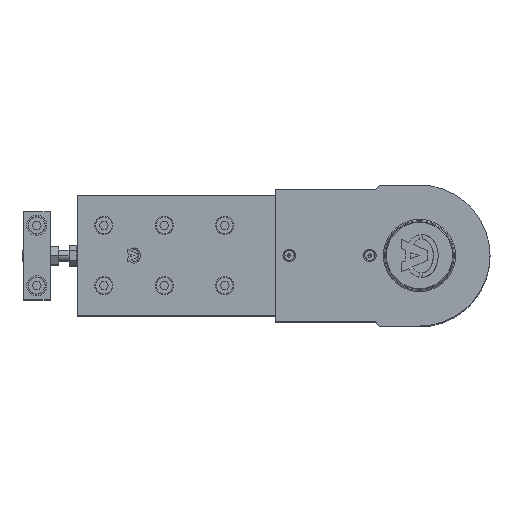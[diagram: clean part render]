
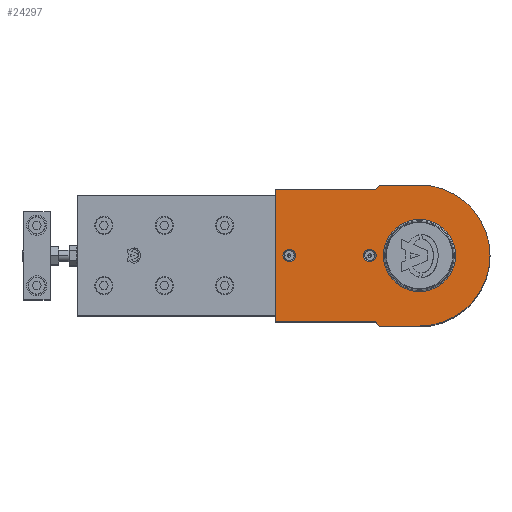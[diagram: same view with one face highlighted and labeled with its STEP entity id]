
A CAD part, top view. The second image highlights one B-rep face of the part: STEP entity #24297.
In plain terms, the highlighted planar face has unit normal (0, 0, 1).
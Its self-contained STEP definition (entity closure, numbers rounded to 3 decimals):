
#202 = AXIS2_PLACEMENT_3D ( 'NONE', #17043, #17044, #17045 ) ;
#205 = CIRCLE ( 'NONE', #202, 4.7 ) ;
#379 = CARTESIAN_POINT ( 'NONE',  ( 26.933, 0., 0. ) ) ;
#380 = CARTESIAN_POINT ( 'NONE',  ( -26.933, 0., 0. ) ) ;
#384 = CARTESIAN_POINT ( 'NONE',  ( 32.3, 0., 0. ) ) ;
#385 = CARTESIAN_POINT ( 'NONE',  ( 41.7, 0., 0. ) ) ;
#388 = CARTESIAN_POINT ( 'NONE',  ( 92.3, 0., 0. ) ) ;
#389 = CARTESIAN_POINT ( 'NONE',  ( 101.7, 0., 0. ) ) ;
#838 = CIRCLE ( 'NONE', #843, 4.7 ) ;
#843 = AXIS2_PLACEMENT_3D ( 'NONE', #17809, #17810, #17811 ) ;
#1179 = AXIS2_PLACEMENT_3D ( 'NONE', #6254, #6256, #6258 ) ;
#1180 = CIRCLE ( 'NONE', #1179, 4.7 ) ;
#3986 = CARTESIAN_POINT ( 'NONE',  ( 0., 0., 0. ) ) ;
#3987 = DIRECTION ( 'NONE',  ( 0., 0., -1. ) ) ;
#3989 = DIRECTION ( 'NONE',  ( 1., 0., 0. ) ) ;
#5051 = LINE ( 'NONE', #5058, #8446 ) ;
#5058 = CARTESIAN_POINT ( 'NONE',  ( 107.5, 49.5, 0. ) ) ;
#5059 = DIRECTION ( 'NONE',  ( -1., 0., 0. ) ) ;
#5110 = LINE ( 'NONE', #5111, #8441 ) ;
#5111 = CARTESIAN_POINT ( 'NONE',  ( 33., -49.5, 0. ) ) ;
#5112 = DIRECTION ( 'NONE',  ( 0.707, 0.707, 0. ) ) ;
#6254 = CARTESIAN_POINT ( 'NONE',  ( 37., 0., 0. ) ) ;
#6256 = DIRECTION ( 'NONE',  ( 0., 0., 1. ) ) ;
#6258 = DIRECTION ( 'NONE',  ( 1., 0., 0. ) ) ;
#6590 = VERTEX_POINT ( 'NONE', #379 ) ;
#6591 = VERTEX_POINT ( 'NONE', #380 ) ;
#6595 = VERTEX_POINT ( 'NONE', #384 ) ;
#6596 = VERTEX_POINT ( 'NONE', #385 ) ;
#6599 = VERTEX_POINT ( 'NONE', #388 ) ;
#6600 = VERTEX_POINT ( 'NONE', #389 ) ;
#6807 = VECTOR ( 'NONE', #15468, 1000. ) ;
#6831 = CIRCLE ( 'NONE', #6838, 4.7 ) ;
#6838 = AXIS2_PLACEMENT_3D ( 'NONE', #15583, #15584, #15585 ) ;
#6849 = CIRCLE ( 'NONE', #6852, 52.5 ) ;
#6852 = AXIS2_PLACEMENT_3D ( 'NONE', #15636, #15637, #15638 ) ;
#6870 = AXIS2_PLACEMENT_3D ( 'NONE', #15708, #15709, #15710 ) ;
#6873 = CIRCLE ( 'NONE', #6870, 26.933 ) ;
#6890 = VECTOR ( 'NONE', #15764, 1000. ) ;
#7362 = EDGE_CURVE ( 'NONE', #6595, #6596, #205, .T. ) ;
#7406 = EDGE_CURVE ( 'NONE', #6590, #6591, #24240, .T. ) ;
#8102 = EDGE_LOOP ( 'NONE', ( #21142, #21143, #21144, #21145, #21146, #21147, #21148, #21149 ) ) ;
#8108 = EDGE_LOOP ( 'NONE', ( #21138, #21139 ) ) ;
#8112 = EDGE_LOOP ( 'NONE', ( #21136, #21137 ) ) ;
#8113 = EDGE_LOOP ( 'NONE', ( #21140, #21141 ) ) ;
#8441 = VECTOR ( 'NONE', #5112, 1000. ) ;
#8446 = VECTOR ( 'NONE', #5059, 1000. ) ;
#9664 = LINE ( 'NONE', #9684, #22557 ) ;
#9684 = CARTESIAN_POINT ( 'NONE',  ( 107.5, -49.5, 0. ) ) ;
#9685 = DIRECTION ( 'NONE',  ( 1., 0., 0. ) ) ;
#9753 = LINE ( 'NONE', #9761, #22560 ) ;
#9761 = CARTESIAN_POINT ( 'NONE',  ( 33., 49.5, 0. ) ) ;
#9765 = DIRECTION ( 'NONE',  ( -0.707, 0.707, 0. ) ) ;
#10975 = FACE_BOUND ( 'NONE', #8108, .T. ) ;
#10978 = DIRECTION ( 'NONE',  ( 0., 0., 1. ) ) ;
#10982 = FACE_BOUND ( 'NONE', #8112, .T. ) ;
#10983 = CARTESIAN_POINT ( 'NONE',  ( 0., 0., 0. ) ) ;
#10985 = FACE_BOUND ( 'NONE', #8113, .T. ) ;
#10986 = FACE_OUTER_BOUND ( 'NONE', #8102, .T. ) ;
#10987 = PLANE ( 'NONE',  #14683 ) ;
#10988 = DIRECTION ( 'NONE',  ( 1., 0., 0. ) ) ;
#13859 = EDGE_CURVE ( 'NONE', #22247, #22254, #20001, .T. ) ;
#14401 = EDGE_CURVE ( 'NONE', #6599, #6600, #838, .T. ) ;
#14683 = AXIS2_PLACEMENT_3D ( 'NONE', #10983, #10978, #10988 ) ;
#15333 = CARTESIAN_POINT ( 'NONE',  ( 107.5, -49.5, 0. ) ) ;
#15340 = CARTESIAN_POINT ( 'NONE',  ( 107.5, 49.5, 0. ) ) ;
#15342 = CARTESIAN_POINT ( 'NONE',  ( 33., 49.5, 0. ) ) ;
#15343 = CARTESIAN_POINT ( 'NONE',  ( 30., 52.5, 0. ) ) ;
#15344 = CARTESIAN_POINT ( 'NONE',  ( 0., 52.5, 0. ) ) ;
#15345 = CARTESIAN_POINT ( 'NONE',  ( 0., -52.5, 0. ) ) ;
#15346 = CARTESIAN_POINT ( 'NONE',  ( 30., -52.5, 0. ) ) ;
#15347 = CARTESIAN_POINT ( 'NONE',  ( 33., -49.5, 0. ) ) ;
#15466 = LINE ( 'NONE', #15467, #6807 ) ;
#15467 = CARTESIAN_POINT ( 'NONE',  ( 30., -52.5, 0. ) ) ;
#15468 = DIRECTION ( 'NONE',  ( 1., 0., 0. ) ) ;
#15583 = CARTESIAN_POINT ( 'NONE',  ( 97., 0., 0. ) ) ;
#15584 = DIRECTION ( 'NONE',  ( 0., 0., 1. ) ) ;
#15585 = DIRECTION ( 'NONE',  ( 1., 0., 0. ) ) ;
#15636 = CARTESIAN_POINT ( 'NONE',  ( 0., 0., 0. ) ) ;
#15637 = DIRECTION ( 'NONE',  ( 0., 0., 1. ) ) ;
#15638 = DIRECTION ( 'NONE',  ( 1., 0., 0. ) ) ;
#15708 = CARTESIAN_POINT ( 'NONE',  ( 0., 0., 0. ) ) ;
#15709 = DIRECTION ( 'NONE',  ( 0., 0., -1. ) ) ;
#15710 = DIRECTION ( 'NONE',  ( 1., 0., 0. ) ) ;
#15762 = LINE ( 'NONE', #15763, #6890 ) ;
#15763 = CARTESIAN_POINT ( 'NONE',  ( 30., 52.5, 0. ) ) ;
#15764 = DIRECTION ( 'NONE',  ( -1., 0., 0. ) ) ;
#17043 = CARTESIAN_POINT ( 'NONE',  ( 37., 0., 0. ) ) ;
#17044 = DIRECTION ( 'NONE',  ( 0., 0., 1. ) ) ;
#17045 = DIRECTION ( 'NONE',  ( 1., 0., 0. ) ) ;
#17809 = CARTESIAN_POINT ( 'NONE',  ( 97., 0., 0. ) ) ;
#17810 = DIRECTION ( 'NONE',  ( 0., 0., 1. ) ) ;
#17811 = DIRECTION ( 'NONE',  ( 1., 0., 0. ) ) ;
#20001 = LINE ( 'NONE', #20003, #20578 ) ;
#20003 = CARTESIAN_POINT ( 'NONE',  ( 107.5, -49.5, 0. ) ) ;
#20004 = DIRECTION ( 'NONE',  ( 0., 1., 0. ) ) ;
#20578 = VECTOR ( 'NONE', #20004, 1000. ) ;
#21136 = ORIENTED_EDGE ( 'NONE', *, *, #7406, .T. ) ;
#21137 = ORIENTED_EDGE ( 'NONE', *, *, #23912, .T. ) ;
#21138 = ORIENTED_EDGE ( 'NONE', *, *, #24559, .F. ) ;
#21139 = ORIENTED_EDGE ( 'NONE', *, *, #7362, .F. ) ;
#21140 = ORIENTED_EDGE ( 'NONE', *, *, #23880, .F. ) ;
#21141 = ORIENTED_EDGE ( 'NONE', *, *, #14401, .F. ) ;
#21142 = ORIENTED_EDGE ( 'NONE', *, *, #13859, .T. ) ;
#21143 = ORIENTED_EDGE ( 'NONE', *, *, #24376, .T. ) ;
#21144 = ORIENTED_EDGE ( 'NONE', *, *, #23962, .T. ) ;
#21145 = ORIENTED_EDGE ( 'NONE', *, *, #23927, .T. ) ;
#21146 = ORIENTED_EDGE ( 'NONE', *, *, #23894, .T. ) ;
#21147 = ORIENTED_EDGE ( 'NONE', *, *, #23855, .T. ) ;
#21148 = ORIENTED_EDGE ( 'NONE', *, *, #24388, .T. ) ;
#21149 = ORIENTED_EDGE ( 'NONE', *, *, #23952, .T. ) ;
#22247 = VERTEX_POINT ( 'NONE', #15333 ) ;
#22254 = VERTEX_POINT ( 'NONE', #15340 ) ;
#22256 = VERTEX_POINT ( 'NONE', #15342 ) ;
#22257 = VERTEX_POINT ( 'NONE', #15343 ) ;
#22258 = VERTEX_POINT ( 'NONE', #15344 ) ;
#22259 = VERTEX_POINT ( 'NONE', #15345 ) ;
#22260 = VERTEX_POINT ( 'NONE', #15346 ) ;
#22261 = VERTEX_POINT ( 'NONE', #15347 ) ;
#22557 = VECTOR ( 'NONE', #9685, 1000. ) ;
#22560 = VECTOR ( 'NONE', #9765, 1000. ) ;
#23855 = EDGE_CURVE ( 'NONE', #22259, #22260, #15466, .T. ) ;
#23880 = EDGE_CURVE ( 'NONE', #6600, #6599, #6831, .T. ) ;
#23894 = EDGE_CURVE ( 'NONE', #22258, #22259, #6849, .T. ) ;
#23912 = EDGE_CURVE ( 'NONE', #6591, #6590, #6873, .T. ) ;
#23927 = EDGE_CURVE ( 'NONE', #22257, #22258, #15762, .T. ) ;
#23952 = EDGE_CURVE ( 'NONE', #22261, #22247, #9664, .T. ) ;
#23962 = EDGE_CURVE ( 'NONE', #22256, #22257, #9753, .T. ) ;
#24240 = CIRCLE ( 'NONE', #24246, 26.933 ) ;
#24246 = AXIS2_PLACEMENT_3D ( 'NONE', #3986, #3987, #3989 ) ;
#24297 = ADVANCED_FACE ( 'NONE', ( #10982, #10975, #10985, #10986 ), #10987, .T. ) ;
#24376 = EDGE_CURVE ( 'NONE', #22254, #22256, #5051, .T. ) ;
#24388 = EDGE_CURVE ( 'NONE', #22260, #22261, #5110, .T. ) ;
#24559 = EDGE_CURVE ( 'NONE', #6596, #6595, #1180, .T. ) ;
